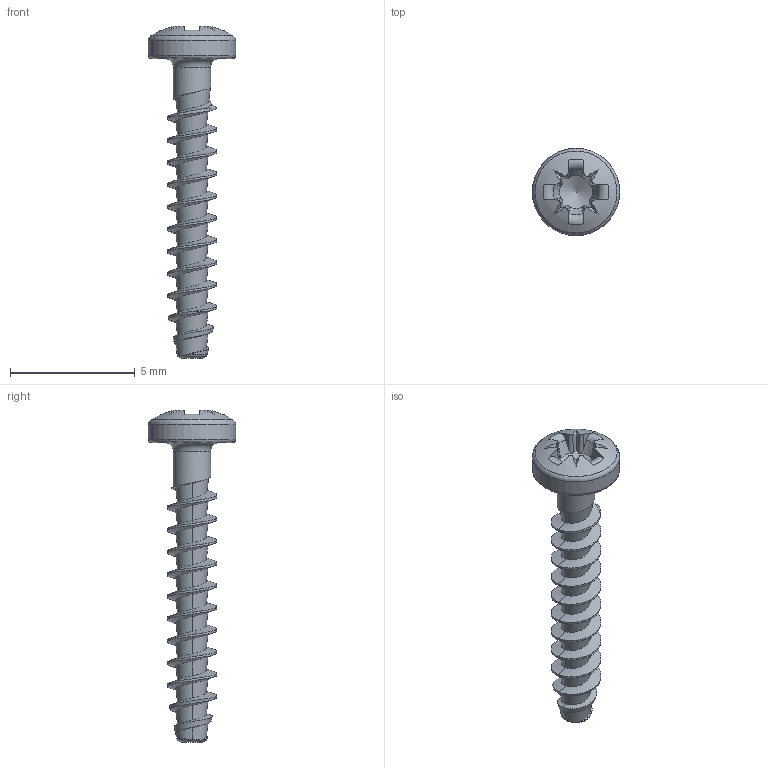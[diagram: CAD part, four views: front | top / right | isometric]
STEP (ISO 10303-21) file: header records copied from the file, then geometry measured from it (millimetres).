
FILE_DESCRIPTION(/* description */ (''),/* implementation_level */ '2;1');
FILE_NAME(/* name */ 'KN1032-STS-20x12-Z1.step',/* time_stamp */ '2017-10-11T12:43:01+02:00',/* author */ (''),/* organization */ (''),/* preprocessor_version */ 'ST-DEVELOPER v16',/* originating_system */ 'SIEMENS PLM Software NX 10.0',/* authorisation */ '');
FILE_SCHEMA (('AUTOMOTIVE_DESIGN { 1 0 10303 214 3 1 1 1 }'));
Length unit declared in the file: millimetre
Products named in the file (1): KN1032-STS-20x10-Z1
Bounding box: 3.5 x 3.5 x 13.3 mm (x, y, z)
Volume: 27.5 mm3; surface area: 114.7 mm2
Topology: 1 solids, 1 shells, 92 faces, 239 edges, 149 vertices
Faces by surface type: bspline 38, plane 26, cylinder 12, torus 8, cone 7, sphere 1
Full cylindrical faces by diameter (mm): 1.5 x1, 3.5 x1
Entity records: 5281 total; most frequent: CARTESIAN_POINT 3403, ORIENTED_EDGE 446, DIRECTION 267, EDGE_CURVE 223, VERTEX_POINT 143, B_SPLINE_CURVE_WITH_KNOTS 111, AXIS2_PLACEMENT_3D 101, EDGE_LOOP 99
